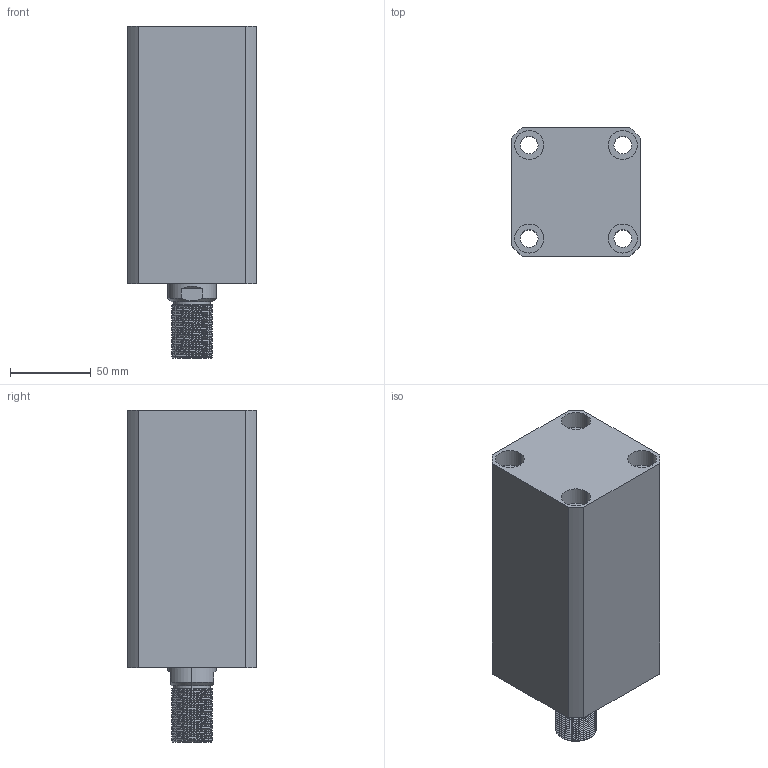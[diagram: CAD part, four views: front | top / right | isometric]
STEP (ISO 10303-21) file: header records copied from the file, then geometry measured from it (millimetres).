
FILE_DESCRIPTION (( 'STEP AP203' ), '1' );
FILE_NAME ('CHTB-SD50-100W.STEP', '2018-05-19T01:06:08', ( '' ), ( '' ), 'SwSTEP 2.0', 'SolidWorks 2015', '' );
FILE_SCHEMA (( 'CONFIG_CONTROL_DESIGN' ));
Length unit declared in the file: millimetre
Products named in the file (4): CHTB-SD50-100W; CHTM-SD50QG; 掛极SD50-100W; 活塞杆SD50-100W
Assembly tree (3 placements, depth 2):
  CHTB-SD50-100W
    掛极SD50-100W
    活塞杆SD50-100W
    CHTM-SD50QG
Bounding box: 80 x 80 x 206 mm (x, y, z)
Volume: 827517.4 mm3; surface area: 151054.8 mm2
Topology: 3 solids, 3 shells, 236 faces, 627 edges, 419 vertices
Faces by surface type: cylinder 144, plane 41, cone 19, bspline 16, torus 16
Entity records: 14613 total; most frequent: CARTESIAN_POINT 8784, ORIENTED_EDGE 1246, DIRECTION 1029, EDGE_CURVE 623, AXIS2_PLACEMENT_3D 422, VERTEX_POINT 419, EDGE_LOOP 276, ADVANCED_FACE 236
